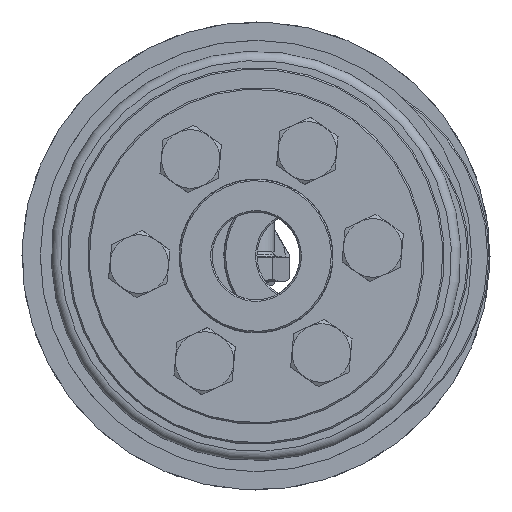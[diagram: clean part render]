
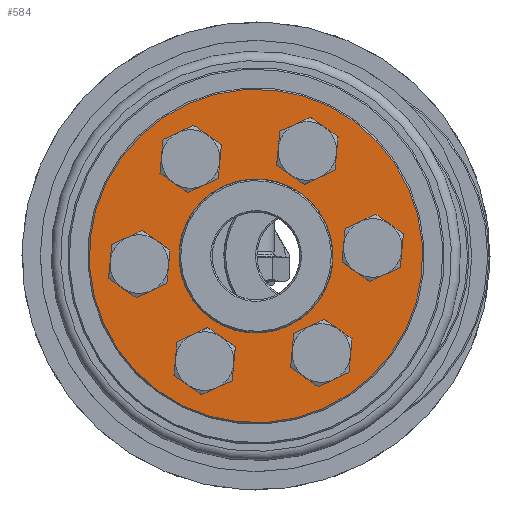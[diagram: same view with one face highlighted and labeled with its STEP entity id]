
A CAD part, left-side view. The second image highlights one B-rep face of the part: STEP entity #584.
In plain terms, the highlighted planar face has unit normal (-1, 0, 0).
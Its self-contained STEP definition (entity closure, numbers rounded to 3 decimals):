
#584 = ADVANCED_FACE( 'NONE', ( #997, #998, #999, #1000, #1001, #1002, #1003, #1004 ), #1005, .F. );
#997 = FACE_OUTER_BOUND( '', #1601, .T. );
#998 = FACE_BOUND( '', #1602, .T. );
#999 = FACE_BOUND( '', #1603, .T. );
#1000 = FACE_BOUND( '', #1604, .T. );
#1001 = FACE_BOUND( '', #1605, .T. );
#1002 = FACE_BOUND( '', #1606, .T. );
#1003 = FACE_BOUND( '', #1607, .T. );
#1004 = FACE_BOUND( '', #1608, .T. );
#1005 = PLANE( '', #1609 );
#1601 = EDGE_LOOP( '', ( #2349 ) );
#1602 = EDGE_LOOP( '', ( #2350 ) );
#1603 = EDGE_LOOP( '', ( #2351 ) );
#1604 = EDGE_LOOP( '', ( #2352 ) );
#1605 = EDGE_LOOP( '', ( #2353 ) );
#1606 = EDGE_LOOP( '', ( #2354 ) );
#1607 = EDGE_LOOP( '', ( #2355 ) );
#1608 = EDGE_LOOP( '', ( #2356 ) );
#1609 = AXIS2_PLACEMENT_3D( '', #2357, #2358, #2359 );
#2349 = ORIENTED_EDGE( '', *, *, #3366, .T. );
#2350 = ORIENTED_EDGE( '', *, *, #3367, .T. );
#2351 = ORIENTED_EDGE( '', *, *, #3368, .T. );
#2352 = ORIENTED_EDGE( '', *, *, #3364, .T. );
#2353 = ORIENTED_EDGE( '', *, *, #3369, .T. );
#2354 = ORIENTED_EDGE( '', *, *, #3370, .T. );
#2355 = ORIENTED_EDGE( '', *, *, #3371, .T. );
#2356 = ORIENTED_EDGE( '', *, *, #3372, .F. );
#2357 = CARTESIAN_POINT( '', ( 0., 10.5, 0. ) );
#2358 = DIRECTION( '', ( 1., 0., 0. ) );
#2359 = DIRECTION( '', ( 0., 1., 0. ) );
#3364 = EDGE_CURVE( 'NONE', #3720, #3720, #3721, .T. );
#3366 = EDGE_CURVE( 'NONE', #3724, #3724, #3725, .T. );
#3367 = EDGE_CURVE( 'NONE', #3726, #3726, #3727, .T. );
#3368 = EDGE_CURVE( 'NONE', #3728, #3728, #3729, .T. );
#3369 = EDGE_CURVE( 'NONE', #3730, #3730, #3731, .T. );
#3370 = EDGE_CURVE( 'NONE', #3732, #3732, #3733, .T. );
#3371 = EDGE_CURVE( 'NONE', #3734, #3734, #3735, .T. );
#3372 = EDGE_CURVE( 'NONE', #3736, #3736, #3737, .T. );
#3720 = VERTEX_POINT( '', #4246 );
#3721 = CIRCLE( '', #4247, 2.75 );
#3724 = VERTEX_POINT( '', #4250 );
#3725 = CIRCLE( '', #4251, 22.8 );
#3726 = VERTEX_POINT( '', #4252 );
#3727 = CIRCLE( '', #4253, 2.75 );
#3728 = VERTEX_POINT( '', #4254 );
#3729 = CIRCLE( '', #4255, 2.75 );
#3730 = VERTEX_POINT( '', #4256 );
#3731 = CIRCLE( '', #4257, 2.75 );
#3732 = VERTEX_POINT( '', #4258 );
#3733 = CIRCLE( '', #4259, 2.75 );
#3734 = VERTEX_POINT( '', #4260 );
#3735 = CIRCLE( '', #4261, 2.75 );
#3736 = VERTEX_POINT( '', #4262 );
#3737 = CIRCLE( '', #4263, 10.5 );
#4246 = CARTESIAN_POINT( '', ( 0., -16., -2.75 ) );
#4247 = AXIS2_PLACEMENT_3D( '', #5111, #5112, #5113 );
#4250 = CARTESIAN_POINT( '', ( 0., 0., -22.8 ) );
#4251 = AXIS2_PLACEMENT_3D( '', #5117, #5118, #5119 );
#4252 = CARTESIAN_POINT( '', ( 0., 8., 11.106 ) );
#4253 = AXIS2_PLACEMENT_3D( '', #5120, #5121, #5122 );
#4254 = CARTESIAN_POINT( '', ( 0., -8., 11.106 ) );
#4255 = AXIS2_PLACEMENT_3D( '', #5123, #5124, #5125 );
#4256 = CARTESIAN_POINT( '', ( 0., -8., -16.606 ) );
#4257 = AXIS2_PLACEMENT_3D( '', #5126, #5127, #5128 );
#4258 = CARTESIAN_POINT( '', ( 0., 8., -16.606 ) );
#4259 = AXIS2_PLACEMENT_3D( '', #5129, #5130, #5131 );
#4260 = CARTESIAN_POINT( '', ( 0., 16., -2.75 ) );
#4261 = AXIS2_PLACEMENT_3D( '', #5132, #5133, #5134 );
#4262 = CARTESIAN_POINT( '', ( 0., 0., 10.5 ) );
#4263 = AXIS2_PLACEMENT_3D( '', #5135, #5136, #5137 );
#5111 = CARTESIAN_POINT( '', ( 0., -16., 0. ) );
#5112 = DIRECTION( '', ( 1., 0., 0. ) );
#5113 = DIRECTION( '', ( 0., 0., -1. ) );
#5117 = CARTESIAN_POINT( '', ( 0., 0., 0. ) );
#5118 = DIRECTION( '', ( -1., 0., 0. ) );
#5119 = DIRECTION( '', ( 0., 0., -1. ) );
#5120 = CARTESIAN_POINT( '', ( 0., 8., 13.856 ) );
#5121 = DIRECTION( '', ( 1., 0., 0. ) );
#5122 = DIRECTION( '', ( 0., 0., -1. ) );
#5123 = CARTESIAN_POINT( '', ( 0., -8., 13.856 ) );
#5124 = DIRECTION( '', ( 1., 0., 0. ) );
#5125 = DIRECTION( '', ( 0., 0., -1. ) );
#5126 = CARTESIAN_POINT( '', ( 0., -8., -13.856 ) );
#5127 = DIRECTION( '', ( 1., 0., 0. ) );
#5128 = DIRECTION( '', ( 0., 0., -1. ) );
#5129 = CARTESIAN_POINT( '', ( 0., 8., -13.856 ) );
#5130 = DIRECTION( '', ( 1., 0., 0. ) );
#5131 = DIRECTION( '', ( 0., 0., -1. ) );
#5132 = CARTESIAN_POINT( '', ( 0., 16., 0. ) );
#5133 = DIRECTION( '', ( 1., 0., 0. ) );
#5134 = DIRECTION( '', ( 0., 0., -1. ) );
#5135 = CARTESIAN_POINT( '', ( 0., 0., 0. ) );
#5136 = DIRECTION( '', ( -1., 0., 0. ) );
#5137 = DIRECTION( '', ( 0., 0., 1. ) );
